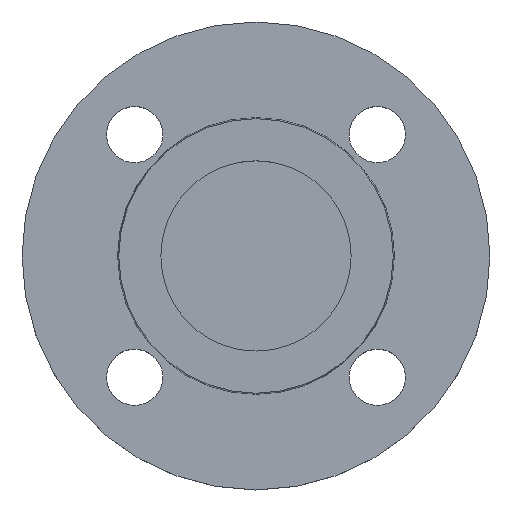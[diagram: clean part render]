
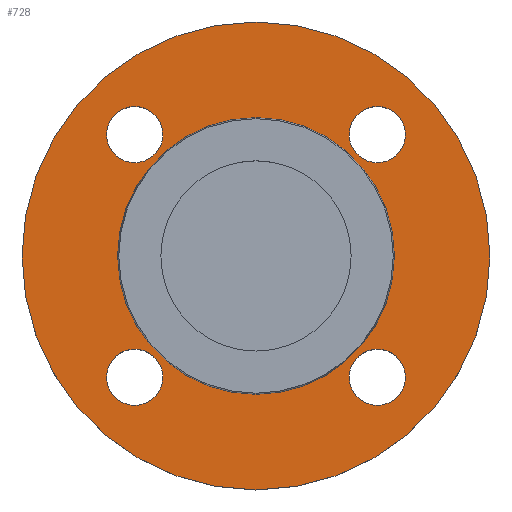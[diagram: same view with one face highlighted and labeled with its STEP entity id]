
A CAD part, top view. The second image highlights one B-rep face of the part: STEP entity #728.
In plain terms, the highlighted planar face has unit normal (0, 0, 1).
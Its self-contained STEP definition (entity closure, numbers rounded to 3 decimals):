
#16 = EDGE_LOOP ( 'NONE', ( #528, #339 ) ) ;
#24 = CARTESIAN_POINT ( 'NONE',  ( 44.353, 0., -2. ) ) ;
#32 = VERTEX_POINT ( 'NONE', #253 ) ;
#40 = CIRCLE ( 'NONE', #554, 9. ) ;
#47 = EDGE_LOOP ( 'NONE', ( #756, #98 ) ) ;
#60 = DIRECTION ( 'NONE',  ( 1., 0., 0. ) ) ;
#66 = AXIS2_PLACEMENT_3D ( 'NONE', #219, #695, #734 ) ;
#71 = CARTESIAN_POINT ( 'NONE',  ( 44.353, 0., -2. ) ) ;
#89 = EDGE_LOOP ( 'NONE', ( #733, #206 ) ) ;
#91 = CARTESIAN_POINT ( 'NONE',  ( 38.891, 38.891, -2. ) ) ;
#93 = DIRECTION ( 'NONE',  ( 0., 0., -1. ) ) ;
#94 = DIRECTION ( 'NONE',  ( 1., 0., 0. ) ) ;
#98 = ORIENTED_EDGE ( 'NONE', *, *, #395, .T. ) ;
#100 = AXIS2_PLACEMENT_3D ( 'NONE', #216, #432, #60 ) ;
#106 = EDGE_CURVE ( 'NONE', #647, #169, #302, .T. ) ;
#124 = AXIS2_PLACEMENT_3D ( 'NONE', #581, #730, #591 ) ;
#131 = CARTESIAN_POINT ( 'NONE',  ( 0., 0., -2. ) ) ;
#146 = EDGE_LOOP ( 'NONE', ( #698, #786 ) ) ;
#148 = CIRCLE ( 'NONE', #355, 44.353 ) ;
#169 = VERTEX_POINT ( 'NONE', #682 ) ;
#170 = AXIS2_PLACEMENT_3D ( 'NONE', #270, #273, #280 ) ;
#177 = CIRCLE ( 'NONE', #454, 9. ) ;
#188 = CARTESIAN_POINT ( 'NONE',  ( -38.891, -38.891, -2. ) ) ;
#191 = DIRECTION ( 'NONE',  ( 0., 0., -1. ) ) ;
#192 = DIRECTION ( 'NONE',  ( 1., 0., 0. ) ) ;
#193 = EDGE_CURVE ( 'NONE', #32, #793, #441, .T. ) ;
#206 = ORIENTED_EDGE ( 'NONE', *, *, #616, .F. ) ;
#216 = CARTESIAN_POINT ( 'NONE',  ( -38.891, 38.891, -2. ) ) ;
#219 = CARTESIAN_POINT ( 'NONE',  ( -38.891, -38.891, -2. ) ) ;
#229 = EDGE_CURVE ( 'NONE', #778, #291, #748, .T. ) ;
#235 = CARTESIAN_POINT ( 'NONE',  ( 0., 0., -2. ) ) ;
#247 = DIRECTION ( 'NONE',  ( 0., 0., -1. ) ) ;
#248 = DIRECTION ( 'NONE',  ( -1., 0., 0. ) ) ;
#253 = CARTESIAN_POINT ( 'NONE',  ( -47.891, -38.891, -2. ) ) ;
#255 = DIRECTION ( 'NONE',  ( 0., 0., -1. ) ) ;
#259 = EDGE_CURVE ( 'NONE', #169, #647, #436, .T. ) ;
#262 = DIRECTION ( 'NONE',  ( 1., 0., 0. ) ) ;
#267 = EDGE_CURVE ( 'NONE', #340, #507, #536, .T. ) ;
#270 = CARTESIAN_POINT ( 'NONE',  ( 0., 0., -2. ) ) ;
#273 = DIRECTION ( 'NONE',  ( 0., 0., -1. ) ) ;
#275 = CARTESIAN_POINT ( 'NONE',  ( -29.891, -38.891, -2. ) ) ;
#280 = DIRECTION ( 'NONE',  ( -1., 0., 0. ) ) ;
#287 = CARTESIAN_POINT ( 'NONE',  ( -47.891, 38.891, -2. ) ) ;
#291 = VERTEX_POINT ( 'NONE', #303 ) ;
#296 = DIRECTION ( 'NONE',  ( 0., 0., -1. ) ) ;
#302 = CIRCLE ( 'NONE', #669, 9. ) ;
#303 = CARTESIAN_POINT ( 'NONE',  ( -44.353, 0., -2. ) ) ;
#308 = VERTEX_POINT ( 'NONE', #315 ) ;
#315 = CARTESIAN_POINT ( 'NONE',  ( -29.891, 38.891, -2. ) ) ;
#339 = ORIENTED_EDGE ( 'NONE', *, *, #229, .T. ) ;
#340 = VERTEX_POINT ( 'NONE', #342 ) ;
#342 = CARTESIAN_POINT ( 'NONE',  ( 75., 0., -2. ) ) ;
#355 = AXIS2_PLACEMENT_3D ( 'NONE', #131, #391, #443 ) ;
#374 = CARTESIAN_POINT ( 'NONE',  ( 38.891, -38.891, -2. ) ) ;
#386 = DIRECTION ( 'NONE',  ( 0., 0., -1. ) ) ;
#387 = DIRECTION ( 'NONE',  ( 1., 0., 0. ) ) ;
#391 = DIRECTION ( 'NONE',  ( 0., 0., -1. ) ) ;
#395 = EDGE_CURVE ( 'NONE', #603, #787, #177, .T. ) ;
#418 = CARTESIAN_POINT ( 'NONE',  ( 38.891, -38.891, -2. ) ) ;
#420 = DIRECTION ( 'NONE',  ( 0., 0., -1. ) ) ;
#421 = DIRECTION ( 'NONE',  ( 1., 0., 0. ) ) ;
#430 = AXIS2_PLACEMENT_3D ( 'NONE', #235, #247, #248 ) ;
#432 = DIRECTION ( 'NONE',  ( 0., 0., -1. ) ) ;
#434 = CIRCLE ( 'NONE', #66, 9. ) ;
#436 = CIRCLE ( 'NONE', #788, 9. ) ;
#441 = CIRCLE ( 'NONE', #827, 9. ) ;
#443 = DIRECTION ( 'NONE',  ( -1., 0., 0. ) ) ;
#444 = ORIENTED_EDGE ( 'NONE', *, *, #106, .T. ) ;
#451 = PLANE ( 'NONE',  #569 ) ;
#452 = CARTESIAN_POINT ( 'NONE',  ( -75., 0., -2. ) ) ;
#454 = AXIS2_PLACEMENT_3D ( 'NONE', #374, #386, #387 ) ;
#465 = EDGE_CURVE ( 'NONE', #787, #603, #40, .T. ) ;
#466 = FACE_BOUND ( 'NONE', #16, .T. ) ;
#506 = FACE_BOUND ( 'NONE', #146, .T. ) ;
#507 = VERTEX_POINT ( 'NONE', #452 ) ;
#522 = FACE_OUTER_BOUND ( 'NONE', #89, .T. ) ;
#525 = CARTESIAN_POINT ( 'NONE',  ( 0., 0., -2. ) ) ;
#526 = DIRECTION ( 'NONE',  ( -1., 0., 0. ) ) ;
#527 = CARTESIAN_POINT ( 'NONE',  ( 47.891, 38.891, -2. ) ) ;
#528 = ORIENTED_EDGE ( 'NONE', *, *, #808, .T. ) ;
#536 = CIRCLE ( 'NONE', #170, 75. ) ;
#537 = FACE_BOUND ( 'NONE', #47, .T. ) ;
#554 = AXIS2_PLACEMENT_3D ( 'NONE', #418, #420, #421 ) ;
#569 = AXIS2_PLACEMENT_3D ( 'NONE', #71, #773, #807 ) ;
#576 = EDGE_CURVE ( 'NONE', #755, #308, #798, .T. ) ;
#581 = CARTESIAN_POINT ( 'NONE',  ( -38.891, 38.891, -2. ) ) ;
#587 = ORIENTED_EDGE ( 'NONE', *, *, #576, .T. ) ;
#591 = DIRECTION ( 'NONE',  ( 1., 0., 0. ) ) ;
#596 = CARTESIAN_POINT ( 'NONE',  ( 29.891, -38.891, -2. ) ) ;
#599 = EDGE_LOOP ( 'NONE', ( #444, #656 ) ) ;
#603 = VERTEX_POINT ( 'NONE', #596 ) ;
#616 = EDGE_CURVE ( 'NONE', #507, #340, #738, .T. ) ;
#629 = ORIENTED_EDGE ( 'NONE', *, *, #723, .T. ) ;
#636 = CARTESIAN_POINT ( 'NONE',  ( 47.891, -38.891, -2. ) ) ;
#647 = VERTEX_POINT ( 'NONE', #527 ) ;
#656 = ORIENTED_EDGE ( 'NONE', *, *, #259, .T. ) ;
#669 = AXIS2_PLACEMENT_3D ( 'NONE', #91, #93, #94 ) ;
#682 = CARTESIAN_POINT ( 'NONE',  ( 29.891, 38.891, -2. ) ) ;
#695 = DIRECTION ( 'NONE',  ( 0., 0., -1. ) ) ;
#698 = ORIENTED_EDGE ( 'NONE', *, *, #726, .T. ) ;
#703 = FACE_BOUND ( 'NONE', #599, .T. ) ;
#723 = EDGE_CURVE ( 'NONE', #308, #755, #739, .T. ) ;
#726 = EDGE_CURVE ( 'NONE', #793, #32, #434, .T. ) ;
#728 = ADVANCED_FACE ( 'NONE', ( #537, #506, #783, #703, #466, #522 ), #451, .T. ) ;
#730 = DIRECTION ( 'NONE',  ( 0., 0., -1. ) ) ;
#733 = ORIENTED_EDGE ( 'NONE', *, *, #267, .F. ) ;
#734 = DIRECTION ( 'NONE',  ( 1., 0., 0. ) ) ;
#738 = CIRCLE ( 'NONE', #825, 75. ) ;
#739 = CIRCLE ( 'NONE', #100, 9. ) ;
#748 = CIRCLE ( 'NONE', #430, 44.353 ) ;
#755 = VERTEX_POINT ( 'NONE', #287 ) ;
#756 = ORIENTED_EDGE ( 'NONE', *, *, #465, .T. ) ;
#773 = DIRECTION ( 'NONE',  ( 0., 0., 1. ) ) ;
#776 = EDGE_LOOP ( 'NONE', ( #629, #587 ) ) ;
#778 = VERTEX_POINT ( 'NONE', #24 ) ;
#783 = FACE_BOUND ( 'NONE', #776, .T. ) ;
#786 = ORIENTED_EDGE ( 'NONE', *, *, #193, .T. ) ;
#787 = VERTEX_POINT ( 'NONE', #636 ) ;
#788 = AXIS2_PLACEMENT_3D ( 'NONE', #817, #255, #262 ) ;
#793 = VERTEX_POINT ( 'NONE', #275 ) ;
#798 = CIRCLE ( 'NONE', #124, 9. ) ;
#807 = DIRECTION ( 'NONE',  ( 1., 0., 0. ) ) ;
#808 = EDGE_CURVE ( 'NONE', #291, #778, #148, .T. ) ;
#817 = CARTESIAN_POINT ( 'NONE',  ( 38.891, 38.891, -2. ) ) ;
#825 = AXIS2_PLACEMENT_3D ( 'NONE', #525, #296, #526 ) ;
#827 = AXIS2_PLACEMENT_3D ( 'NONE', #188, #191, #192 ) ;
